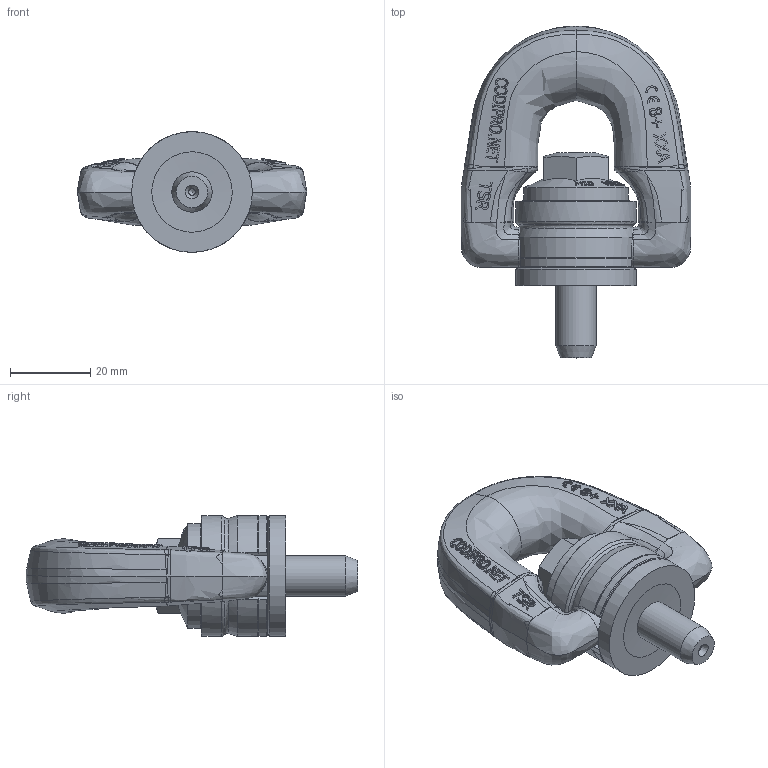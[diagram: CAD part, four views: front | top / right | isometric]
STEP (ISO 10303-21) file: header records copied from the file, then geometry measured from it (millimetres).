
FILE_DESCRIPTION(/* description */ (''),/* implementation_level */ '2;1');
FILE_NAME(/* name */ 'W:\CODIPRO\DOCUMENTS\Plans A NE PAS DIFFUSER !!!\Inventor\Standard Inventor\Produit Fini Inventor\DSP\Fichiers 3D\DSP M10.stp',/* time_stamp */ '2017-10-06T08:44:25+02:00',/* author */ ('rklenes'),/* organization */ (''),/* preprocessor_version */ 'ST-DEVELOPER v16.5',/* originating_system */ 'Autodesk Inventor 2017',/* authorisation */ '');
FILE_SCHEMA (('AUTOMOTIVE_DESIGN { 1 0 10303 214 3 1 1 }'));
Products named in the file (5): DSP M10; TSM_AO1C; DRB_B1B; DRE_D1M10A; DRA_M10X39
Assembly tree (4 placements, depth 2):
  DSP M10
    TSM_AO1C
    DRB_B1B
    DRE_D1M10A
    DRA_M10X39
Bounding box: 57.01 x 82.5 x 30 mm (x, y, z)
Volume: 44457.2 mm3; surface area: 16854.3 mm2
Topology: 4 solids, 4 shells, 689 faces, 1819 edges, 1141 vertices
Faces by surface type: bspline 364, plane 248, cone 37, cylinder 28, torus 11, sphere 1
Full cylindrical faces by diameter (mm): 1.6 x1, 10 x5, 10.2 x1, 14.7 x2, 15 x2, 22 x1, 26 x1, 30 x2
Entity records: 43523 total; most frequent: CARTESIAN_POINT 29162, ORIENTED_EDGE 3468, DIRECTION 1975, EDGE_CURVE 1734, VERTEX_POINT 1132, EDGE_LOOP 770, B_SPLINE_CURVE_WITH_KNOTS 740, AXIS2_PLACEMENT_3D 712
